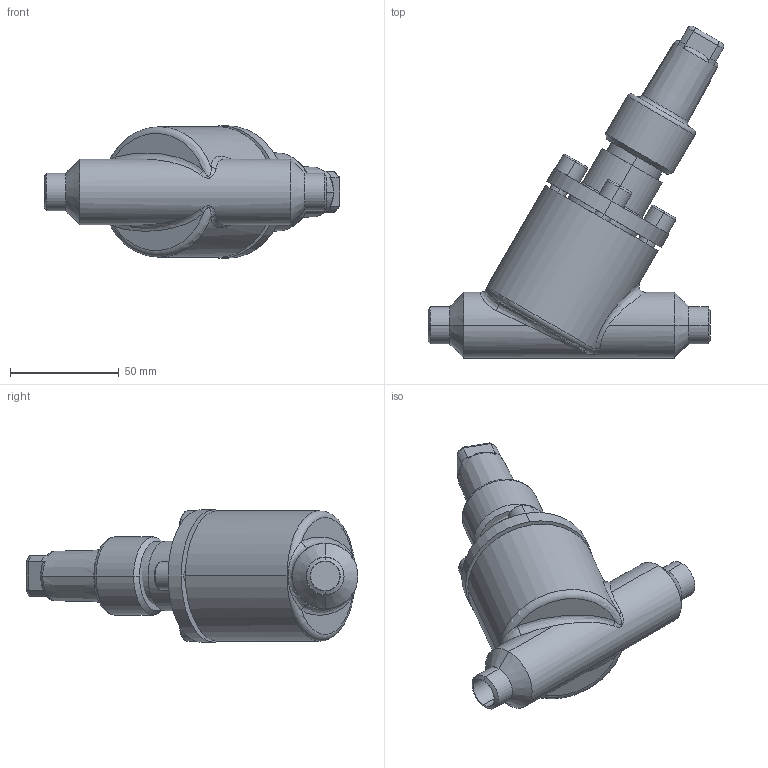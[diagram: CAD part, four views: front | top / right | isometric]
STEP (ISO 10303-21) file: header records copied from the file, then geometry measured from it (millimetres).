
FILE_DESCRIPTION (( 'STEP AP214' ), '1' );
FILE_NAME ('HRAB12300D08-DN010_R1_PS40.STEP', '2006-04-27T11:53:14', ( 'Herr Grams' ), ( 'AWP GmbH' ), 'SwSTEP 2.0', 'SolidWorks 2002296', '' );
FILE_SCHEMA (( 'AUTOMOTIVE_DESIGN' ));
Length unit declared in the file: millimetre
Products named in the file (6): HRAB12300D08-DN010_R1_PS40; AVB16300K10_Deck+Schr-DN10-20_Standard; Deckel16300K10-DN10-20_Standard; Zylinderschraube-DIN912_M 8x 16; Gehäuse16300-DN010_Standard; Kappe96300E10_DN6-20_Standard
Assembly tree (8 placements, depth 3):
  HRAB12300D08-DN010_R1_PS40
    AVB16300K10_Deck+Schr-DN10-20_Standard
      Zylinderschraube-DIN912_M 8x 16  x4
      Deckel16300K10-DN10-20_Standard
    Kappe96300E10_DN6-20_Standard
    Gehäuse16300-DN010_Standard
Bounding box: 136.23 x 152.92 x 61 mm (x, y, z)
Volume: 276825.8 mm3; surface area: 57169.5 mm2
Topology: 7 solids, 7 shells, 217 faces, 467 edges, 292 vertices
Faces by surface type: cylinder 83, plane 77, cone 26, torus 25, bspline 6
Entity records: 17966 total; most frequent: CARTESIAN_POINT 13716, DIRECTION 838, ORIENTED_EDGE 706, AXIS2_PLACEMENT_3D 358, EDGE_CURVE 353, VERTEX_POINT 220, EDGE_LOOP 193, CIRCLE 189
